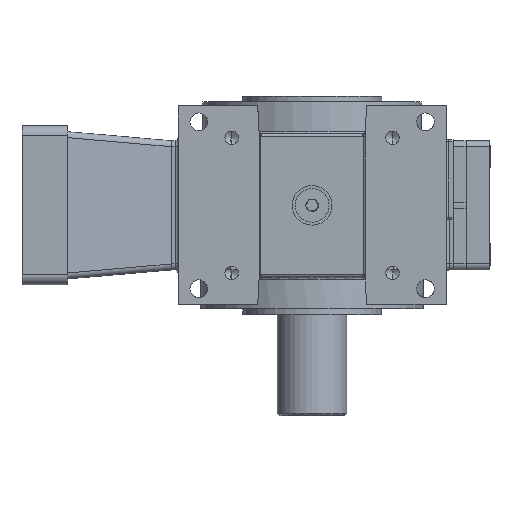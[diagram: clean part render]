
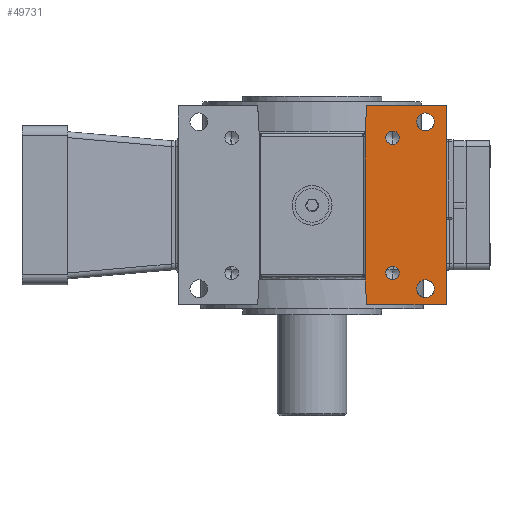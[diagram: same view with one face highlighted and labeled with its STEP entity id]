
A CAD part, front view. The second image highlights one B-rep face of the part: STEP entity #49731.
In plain terms, the highlighted planar face has unit normal (0, -1, 0).
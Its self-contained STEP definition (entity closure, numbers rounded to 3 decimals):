
#44 = FACE_BOUND ( 'NONE', #10385, .T. ) ;
#287 = LINE ( 'NONE', #22173, #57392 ) ;
#1513 = EDGE_LOOP ( 'NONE', ( #64374, #56160 ) ) ;
#2634 = EDGE_CURVE ( 'NONE', #50347, #53629, #65217, .T. ) ;
#2881 = CARTESIAN_POINT ( 'NONE',  ( 40.5, -78., 37.4 ) ) ;
#3348 = AXIS2_PLACEMENT_3D ( 'NONE', #56911, #35727, #29605 ) ;
#3372 = CARTESIAN_POINT ( 'NONE',  ( 57., -78., -37.5 ) ) ;
#3464 = EDGE_CURVE ( 'NONE', #69043, #4488, #64182, .T. ) ;
#4488 = VERTEX_POINT ( 'NONE', #37252 ) ;
#5039 = DIRECTION ( 'NONE',  ( 0., 0., -1. ) ) ;
#5417 = CIRCLE ( 'NONE', #28275, 3.4 ) ;
#5493 = CIRCLE ( 'NONE', #67320, 3.4 ) ;
#5944 = CARTESIAN_POINT ( 'NONE',  ( 27.395, -78., 50. ) ) ;
#7085 = CARTESIAN_POINT ( 'NONE',  ( 57., -78., 42. ) ) ;
#7148 = CARTESIAN_POINT ( 'NONE',  ( 67.5, -78., -50. ) ) ;
#7263 = EDGE_CURVE ( 'NONE', #46871, #60649, #12404, .T. ) ;
#7441 = CARTESIAN_POINT ( 'NONE',  ( 57., -78., 42. ) ) ;
#7462 = CARTESIAN_POINT ( 'NONE',  ( 27.461, -78., -35.979 ) ) ;
#8775 = ORIENTED_EDGE ( 'NONE', *, *, #3464, .T. ) ;
#9056 = DIRECTION ( 'NONE',  ( 0., -1., 0. ) ) ;
#9738 = FACE_BOUND ( 'NONE', #30965, .T. ) ;
#10385 = EDGE_LOOP ( 'NONE', ( #22303, #46493 ) ) ;
#10463 = CARTESIAN_POINT ( 'NONE',  ( 57., -78., 37.5 ) ) ;
#10606 = VERTEX_POINT ( 'NONE', #69755 ) ;
#12404 = LINE ( 'NONE', #44720, #42846 ) ;
#12415 = AXIS2_PLACEMENT_3D ( 'NONE', #7085, #50860, #68724 ) ;
#12906 = EDGE_CURVE ( 'NONE', #46871, #61569, #19743, .T. ) ;
#12967 = VERTEX_POINT ( 'NONE', #55751 ) ;
#13147 = CARTESIAN_POINT ( 'NONE',  ( 57., -78., 46.5 ) ) ;
#14198 = AXIS2_PLACEMENT_3D ( 'NONE', #21566, #15844, #48505 ) ;
#14831 = AXIS2_PLACEMENT_3D ( 'NONE', #7441, #34357, #44433 ) ;
#15626 = ORIENTED_EDGE ( 'NONE', *, *, #41241, .F. ) ;
#15844 = DIRECTION ( 'NONE',  ( 0., 1., 0. ) ) ;
#17283 = ORIENTED_EDGE ( 'NONE', *, *, #32732, .F. ) ;
#17418 = CARTESIAN_POINT ( 'NONE',  ( 26.661, -78., 35.979 ) ) ;
#17430 = DIRECTION ( 'NONE',  ( 1., 0., 0. ) ) ;
#18146 = EDGE_CURVE ( 'NONE', #10606, #45167, #53006, .T. ) ;
#19499 = CARTESIAN_POINT ( 'NONE',  ( 57., -78., -42. ) ) ;
#19588 = CARTESIAN_POINT ( 'NONE',  ( 40.5, -78., 30.6 ) ) ;
#19609 = EDGE_CURVE ( 'NONE', #32337, #66167, #287, .T. ) ;
#19743 = LINE ( 'NONE', #52384, #40150 ) ;
#21226 = FACE_BOUND ( 'NONE', #1513, .T. ) ;
#21566 = CARTESIAN_POINT ( 'NONE',  ( -67.5, -78., 36. ) ) ;
#21634 = DIRECTION ( 'NONE',  ( 1., 0., 0. ) ) ;
#21941 = VERTEX_POINT ( 'NONE', #2881 ) ;
#22173 = CARTESIAN_POINT ( 'NONE',  ( 26.661, -78., 36. ) ) ;
#22303 = ORIENTED_EDGE ( 'NONE', *, *, #18146, .F. ) ;
#22727 = CIRCLE ( 'NONE', #12415, 4.5 ) ;
#22990 = VERTEX_POINT ( 'NONE', #7148 ) ;
#24742 = CARTESIAN_POINT ( 'NONE',  ( 22.641, -78., 40.724 ) ) ;
#24901 = ORIENTED_EDGE ( 'NONE', *, *, #31065, .F. ) ;
#25141 = CARTESIAN_POINT ( 'NONE',  ( 40.5, -78., -30.6 ) ) ;
#26308 = VECTOR ( 'NONE', #57141, 1000. ) ;
#26643 = CARTESIAN_POINT ( 'NONE',  ( 40.5, -78., 34. ) ) ;
#26796 = CARTESIAN_POINT ( 'NONE',  ( 26.663, -78., 36.021 ) ) ;
#27239 = ORIENTED_EDGE ( 'NONE', *, *, #67017, .F. ) ;
#27632 = EDGE_CURVE ( 'NONE', #66167, #69043, #38533, .T. ) ;
#28275 = AXIS2_PLACEMENT_3D ( 'NONE', #26643, #49613, #60732 ) ;
#29250 = EDGE_CURVE ( 'NONE', #45167, #10606, #29501, .T. ) ;
#29336 = DIRECTION ( 'NONE',  ( 0., 0., 1. ) ) ;
#29501 = CIRCLE ( 'NONE', #31784, 4.5 ) ;
#29605 = DIRECTION ( 'NONE',  ( 0., 0., -1. ) ) ;
#29899 = CARTESIAN_POINT ( 'NONE',  ( 26.663, -78., -36.021 ) ) ;
#30195 = ORIENTED_EDGE ( 'NONE', *, *, #62915, .T. ) ;
#30204 = CARTESIAN_POINT ( 'NONE',  ( 67.5, -78., 36. ) ) ;
#30234 = EDGE_LOOP ( 'NONE', ( #24901, #27239 ) ) ;
#30965 = EDGE_LOOP ( 'NONE', ( #15626, #36807 ) ) ;
#31065 = EDGE_CURVE ( 'NONE', #12967, #66907, #5493, .T. ) ;
#31225 = EDGE_CURVE ( 'NONE', #53629, #50347, #22727, .T. ) ;
#31334 = ORIENTED_EDGE ( 'NONE', *, *, #32453, .T. ) ;
#31784 = AXIS2_PLACEMENT_3D ( 'NONE', #19499, #9056, #58247 ) ;
#32337 = VERTEX_POINT ( 'NONE', #17418 ) ;
#32453 = EDGE_CURVE ( 'NONE', #4488, #22990, #37808, .T. ) ;
#32732 = EDGE_CURVE ( 'NONE', #60649, #22990, #68924, .T. ) ;
#33037 = FACE_OUTER_BOUND ( 'NONE', #43574, .T. ) ;
#33972 = AXIS2_PLACEMENT_3D ( 'NONE', #7462, #40489, #29336 ) ;
#34357 = DIRECTION ( 'NONE',  ( 0., -1., 0. ) ) ;
#35727 = DIRECTION ( 'NONE',  ( 0., -1., 0. ) ) ;
#36807 = ORIENTED_EDGE ( 'NONE', *, *, #38571, .F. ) ;
#37252 = CARTESIAN_POINT ( 'NONE',  ( 27.395, -78., -50. ) ) ;
#37598 = DIRECTION ( 'NONE',  ( 0., -1., 0. ) ) ;
#37808 = LINE ( 'NONE', #49275, #38880 ) ;
#38533 = CIRCLE ( 'NONE', #33972, 0.8 ) ;
#38571 = EDGE_CURVE ( 'NONE', #21941, #66100, #5417, .T. ) ;
#38880 = VECTOR ( 'NONE', #21634, 1000. ) ;
#39704 = CARTESIAN_POINT ( 'NONE',  ( 67.5, -78., 50. ) ) ;
#39816 = AXIS2_PLACEMENT_3D ( 'NONE', #41230, #63096, #52696 ) ;
#40150 = VECTOR ( 'NONE', #47022, 1000. ) ;
#40373 = AXIS2_PLACEMENT_3D ( 'NONE', #63202, #46360, #46707 ) ;
#40489 = DIRECTION ( 'NONE',  ( 0., -1., 0. ) ) ;
#40910 = ORIENTED_EDGE ( 'NONE', *, *, #12906, .T. ) ;
#41230 = CARTESIAN_POINT ( 'NONE',  ( 27.461, -78., 35.979 ) ) ;
#41241 = EDGE_CURVE ( 'NONE', #66100, #21941, #59550, .T. ) ;
#41300 = AXIS2_PLACEMENT_3D ( 'NONE', #69225, #59575, #5039 ) ;
#42846 = VECTOR ( 'NONE', #17430, 1000. ) ;
#43574 = EDGE_LOOP ( 'NONE', ( #40910, #30195, #51249, #58765, #8775, #31334, #17283, #47166 ) ) ;
#44433 = DIRECTION ( 'NONE',  ( 0., 0., -1. ) ) ;
#44720 = CARTESIAN_POINT ( 'NONE',  ( 67.5, -78., 50. ) ) ;
#45167 = VERTEX_POINT ( 'NONE', #3372 ) ;
#45866 = CIRCLE ( 'NONE', #41300, 3.4 ) ;
#46296 = DIRECTION ( 'NONE',  ( 0.052, 0., -0.999 ) ) ;
#46360 = DIRECTION ( 'NONE',  ( 0., -1., 0. ) ) ;
#46493 = ORIENTED_EDGE ( 'NONE', *, *, #29250, .F. ) ;
#46707 = DIRECTION ( 'NONE',  ( 0., 0., -1. ) ) ;
#46871 = VERTEX_POINT ( 'NONE', #5944 ) ;
#47022 = DIRECTION ( 'NONE',  ( -0.052, 0., -0.999 ) ) ;
#47166 = ORIENTED_EDGE ( 'NONE', *, *, #7263, .F. ) ;
#48379 = CARTESIAN_POINT ( 'NONE',  ( 40.5, -78., -34. ) ) ;
#48505 = DIRECTION ( 'NONE',  ( 0., 0., 1. ) ) ;
#48752 = DIRECTION ( 'NONE',  ( 0., 0., -1. ) ) ;
#49275 = CARTESIAN_POINT ( 'NONE',  ( 67.5, -78., -50. ) ) ;
#49613 = DIRECTION ( 'NONE',  ( 0., -1., 0. ) ) ;
#49731 = ADVANCED_FACE ( 'NONE', ( #21226, #44, #59277, #9738, #33037 ), #70677, .F. ) ;
#50347 = VERTEX_POINT ( 'NONE', #13147 ) ;
#50860 = DIRECTION ( 'NONE',  ( 0., -1., 0. ) ) ;
#51249 = ORIENTED_EDGE ( 'NONE', *, *, #19609, .T. ) ;
#52384 = CARTESIAN_POINT ( 'NONE',  ( 26.404, -78., 31.079 ) ) ;
#52696 = DIRECTION ( 'NONE',  ( 0., 0., 1. ) ) ;
#53006 = CIRCLE ( 'NONE', #40373, 4.5 ) ;
#53629 = VERTEX_POINT ( 'NONE', #10463 ) ;
#55751 = CARTESIAN_POINT ( 'NONE',  ( 40.5, -78., -37.4 ) ) ;
#56160 = ORIENTED_EDGE ( 'NONE', *, *, #2634, .F. ) ;
#56911 = CARTESIAN_POINT ( 'NONE',  ( 40.5, -78., 34. ) ) ;
#57141 = DIRECTION ( 'NONE',  ( 0., 0., -1. ) ) ;
#57367 = VECTOR ( 'NONE', #46296, 1000. ) ;
#57392 = VECTOR ( 'NONE', #48752, 1000. ) ;
#58247 = DIRECTION ( 'NONE',  ( 0., 0., -1. ) ) ;
#58765 = ORIENTED_EDGE ( 'NONE', *, *, #27632, .T. ) ;
#59277 = FACE_BOUND ( 'NONE', #30234, .T. ) ;
#59550 = CIRCLE ( 'NONE', #3348, 3.4 ) ;
#59575 = DIRECTION ( 'NONE',  ( 0., -1., 0. ) ) ;
#60649 = VERTEX_POINT ( 'NONE', #39704 ) ;
#60732 = DIRECTION ( 'NONE',  ( 0., 0., -1. ) ) ;
#61569 = VERTEX_POINT ( 'NONE', #26796 ) ;
#61588 = CIRCLE ( 'NONE', #39816, 0.8 ) ;
#62915 = EDGE_CURVE ( 'NONE', #61569, #32337, #61588, .T. ) ;
#63096 = DIRECTION ( 'NONE',  ( 0., -1., 0. ) ) ;
#63202 = CARTESIAN_POINT ( 'NONE',  ( 57., -78., -42. ) ) ;
#64182 = LINE ( 'NONE', #24742, #57367 ) ;
#64374 = ORIENTED_EDGE ( 'NONE', *, *, #31225, .F. ) ;
#64399 = CARTESIAN_POINT ( 'NONE',  ( 26.661, -78., -35.979 ) ) ;
#65217 = CIRCLE ( 'NONE', #14831, 4.5 ) ;
#66100 = VERTEX_POINT ( 'NONE', #19588 ) ;
#66167 = VERTEX_POINT ( 'NONE', #64399 ) ;
#66907 = VERTEX_POINT ( 'NONE', #25141 ) ;
#67017 = EDGE_CURVE ( 'NONE', #66907, #12967, #45866, .T. ) ;
#67320 = AXIS2_PLACEMENT_3D ( 'NONE', #48379, #37598, #70549 ) ;
#68724 = DIRECTION ( 'NONE',  ( 0., 0., -1. ) ) ;
#68924 = LINE ( 'NONE', #30204, #26308 ) ;
#69043 = VERTEX_POINT ( 'NONE', #29899 ) ;
#69225 = CARTESIAN_POINT ( 'NONE',  ( 40.5, -78., -34. ) ) ;
#69755 = CARTESIAN_POINT ( 'NONE',  ( 57., -78., -46.5 ) ) ;
#70549 = DIRECTION ( 'NONE',  ( 0., 0., -1. ) ) ;
#70677 = PLANE ( 'NONE',  #14198 ) ;
